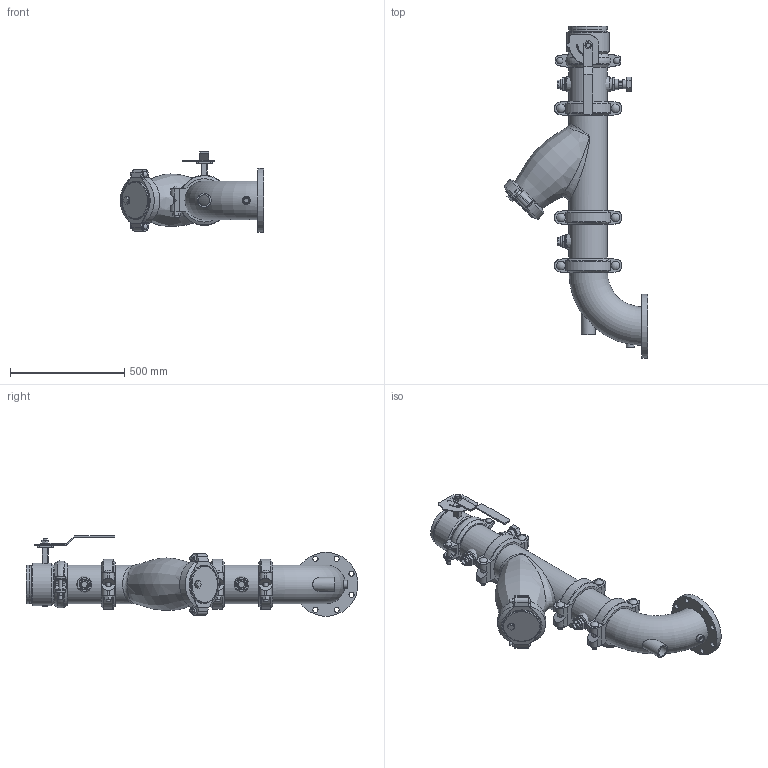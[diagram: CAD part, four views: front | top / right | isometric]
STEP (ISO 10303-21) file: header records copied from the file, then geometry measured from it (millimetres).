
FILE_DESCRIPTION(/* description */ ('VIC SVI PUMP DROP HORZ S/382 (OGSxFLG) (S/924-1.25)','CAx-IF Rec.Pracs.---Representation and Presentation of Product Manufacturing Information (PMI)---4.0---2014-10-13'),/* implementation_level */ '2;1');
FILE_NAME(/* name */ 'C:\Users\Vjadhav\AppData\Roaming\Autodesk\ApplicationPlugins\Victaulic.Temp\A115\Series 382 (OGSxFLG)_924 (1.25)_06.0x06.0 (150x150).stp',/* time_stamp */ '2022-03-17T12:19:47+06:00',/* author */ ('kkamble'),/* organization */ ('Victaulic'),/* preprocessor_version */ 'ST-DEVELOPER v17.2',/* originating_system */ 'Autodesk Inventor 2019',/* authorisation */ '');
FILE_SCHEMA (('AP242_MANAGED_MODEL_BASED_3D_ENGINEERING_MIM_LF { 1 0 10303 442 1 1 4 }'));
Length unit declared in the file: inch
Products named in the file (13): 382_924 (1.25)-06.0x06.0; PIPE-06.0; 107N-06.0; 732-06.0; 732-06.0_1; 07-06.0; 732-06.0_2; PIPE-06.3; 761-06.0; 924-04.0x01.25; 177N-06.0; 923-04.0x0.75; 100F-06.0
Assembly tree (15 placements, depth 3):
  382_924 (1.25)-06.0x06.0
    PIPE-06.0
    107N-06.0
    732-06.0
      732-06.0_1
      07-06.0
      732-06.0_2
    177N-06.0  x3
    PIPE-06.3
    761-06.0
    924-04.0x01.25
    923-04.0x0.75  x2
    100F-06.0
Bounding box: 627.13 x 1450.97 x 352.55 mm (x, y, z)
Volume: 14108202.2 mm3; surface area: 2917862.1 mm2
Topology: 14 solids, 18 shells, 891 faces, 2283 edges, 1520 vertices
Faces by surface type: plane 499, cylinder 296, torus 33, cone 27, bspline 26, sphere 10
Full cylindrical faces by diameter (mm): 4.826 x10, 8.636 x4, 15.875 x8, 19.05 x8, 20.93 x1, 21.336 x1, 22.352 x8, 22.86 x1, 26.67 x5, 27.381 x4, 31.75 x1, 34.29 x1, 37.694 x6, 38.608 x1, 42.164 x1, 45.974 x6, 48.26 x1, 48.514 x1, 55.118 x1, 55.626 x3, 60.96 x1, 139.7 x1, 153.797 x1, 154.051 x6, 155.575 x5, 163.957 x11, 168.275 x26, 185.42 x1, 279.4 x1
Entity records: 25260 total; most frequent: CARTESIAN_POINT 7805, DIRECTION 3544, ORIENTED_EDGE 3294, EDGE_CURVE 1647, AXIS2_PLACEMENT_3D 1352, VERTEX_POINT 1102, LINE 840, VECTOR 840
